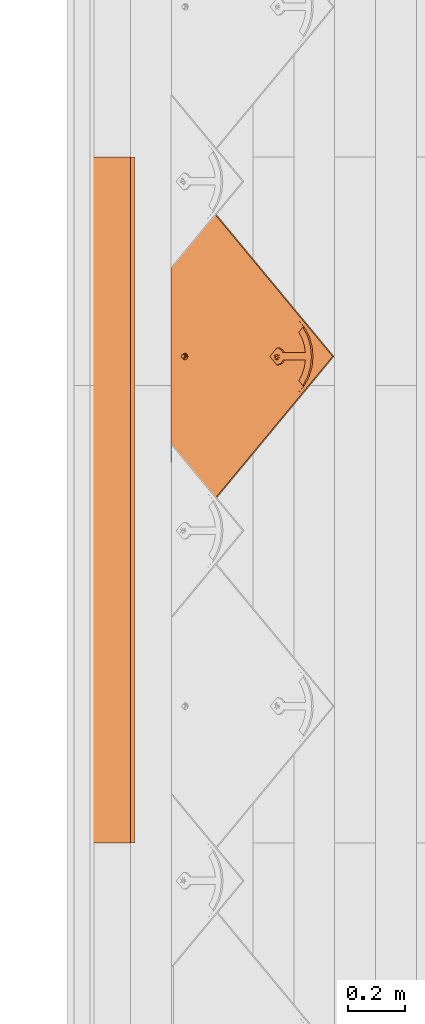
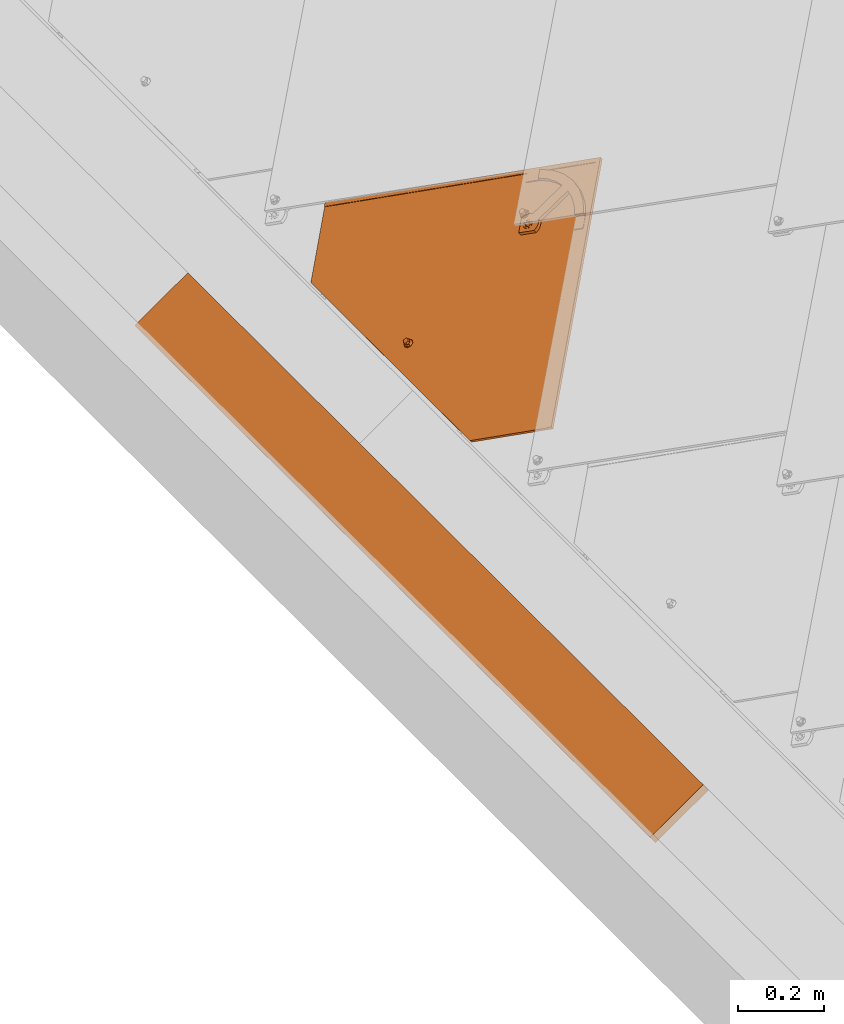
# One storey, part 26 of 151: 2 proxies, 1 element without a shape of its own.
"""IFC2X3 building model written with IfcOpenShell, lengths in millimetres."""

from ifc_helpers import new_model, entity, si_unit, converted_unit, derived_unit, direction, frame, frame_2d, origin, place, context, subcontext, project, spatial, rectangle, extrude, faceted_brep, source, transform, mapped, material, material_list, type_object, type_shapes, element, aggregate, save


model = new_model("IFC2X3")

# Units and contexts
model_context = context("Model", 3, precision=0.01, world=origin(), true_north=direction((6.12303176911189e-17, 1.0)))
body_context = subcontext(model_context, "Body", "Model", "MODEL_VIEW")
ifc_project = project(units=[si_unit("LENGTHUNIT", "METRE", prefix="MILLI"), si_unit("AREAUNIT", "SQUARE_METRE"), si_unit("VOLUMEUNIT", "CUBIC_METRE"), converted_unit("PLANEANGLEUNIT", "DEGREE", entity("IfcRatioMeasure", 0.0174532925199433), si_unit("PLANEANGLEUNIT", "RADIAN"), dimensions=[0, 0, 0, 0, 0, 0, 0]), si_unit("MASSUNIT", "GRAM", prefix="KILO"), derived_unit("MASSDENSITYUNIT", [(si_unit("MASSUNIT", "GRAM", prefix="KILO"), 1), (si_unit("LENGTHUNIT", "METRE"), -3)]), si_unit("TIMEUNIT", "SECOND"), si_unit("FREQUENCYUNIT", "HERTZ"), si_unit("THERMODYNAMICTEMPERATUREUNIT", "DEGREE_CELSIUS"), derived_unit("THERMALTRANSMITTANCEUNIT", [(si_unit("MASSUNIT", "GRAM", prefix="KILO"), 1), (si_unit("THERMODYNAMICTEMPERATUREUNIT", "KELVIN"), -1), (si_unit("TIMEUNIT", "SECOND"), -3)]), derived_unit("VOLUMETRICFLOWRATEUNIT", [(si_unit("LENGTHUNIT", "METRE"), 3), (si_unit("TIMEUNIT", "SECOND"), -1)]), si_unit("ELECTRICCURRENTUNIT", "AMPERE"), si_unit("ELECTRICVOLTAGEUNIT", "VOLT"), si_unit("POWERUNIT", "WATT"), si_unit("FORCEUNIT", "NEWTON", prefix="KILO"), si_unit("ILLUMINANCEUNIT", "LUX"), si_unit("LUMINOUSFLUXUNIT", "LUMEN"), si_unit("LUMINOUSINTENSITYUNIT", "CANDELA"), derived_unit("USERDEFINED", [(si_unit("MASSUNIT", "GRAM", prefix="KILO"), -1), (si_unit("LENGTHUNIT", "METRE"), -2), (si_unit("TIMEUNIT", "SECOND"), 3), (si_unit("LUMINOUSFLUXUNIT", "LUMEN"), 1)]), derived_unit("LINEARVELOCITYUNIT", [(si_unit("LENGTHUNIT", "METRE"), 1), (si_unit("TIMEUNIT", "SECOND"), -1)]), si_unit("PRESSUREUNIT", "PASCAL"), derived_unit("USERDEFINED", [(si_unit("LENGTHUNIT", "METRE"), -2), (si_unit("MASSUNIT", "GRAM", prefix="KILO"), 1), (si_unit("TIMEUNIT", "SECOND"), -2)])], contexts=[model_context])

# Site, building, storey
site_placement = place(None, origin())
site = spatial("IfcSite", under=ifc_project, at=site_placement, Name="Default", CompositionType="ELEMENT")
building_placement = place(site_placement, origin())
building = spatial("IfcBuilding", under=site, at=building_placement, CompositionType="ELEMENT")
storey_placement = place(building_placement, origin())
storey = spatial("IfcBuildingStorey", under=building, at=storey_placement, Name="Level 1", CompositionType="ELEMENT", Elevation=0.0)

# Assembly, proxy
assembly_placement = place(storey_placement, origin())
assembly = element("IfcElementAssembly", 1, at=assembly_placement, inside=storey, Name="Structural Framing Assembly:Roof Construction Assembly", ObjectType="Structural Framing Assembly:Roof Construction Assembly", AssemblyPlace="NOTDEFINED", PredefinedType="USERDEFINED")
ifc_material_1 = material(Name="Wood - Generic - Wood For Showcase")
building_element_proxy_type_1 = type_object("IfcBuildingElementProxyType", Name="Structural Framing 15", PredefinedType="NOTDEFINED", material=ifc_material_1)
shared_shape_1 = source(origin(), body_context, "Body", "SweptSolid", [
    extrude(rectangle(XDim=24.9999999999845, YDim=174.344679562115, at=frame_2d((-1.77635683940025e-13, -4.54747350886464e-13), x_axis=(0.0, 1.0))), frame((1128.20180147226, 1525.55080214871, 2760.23940055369), z_axis=(0.0, 1.0, 0.0), x_axis=(-0.819152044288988, 0.0, -0.573576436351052)), (0.0, 0.0, 1.0), 2400.0),
])
type_shapes(building_element_proxy_type_1, [shared_shape_1])
proxy_1_placement = place(assembly_placement, frame((-3655.6969464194, -4870.0, -2600.0)))
proxy_1 = element("IfcBuildingElementProxy", 2, at=proxy_1_placement, type_object=building_element_proxy_type_1, material=ifc_material_1, Name="Structural Framing 147:Structural Framing 15", ObjectType="Structural Framing 147:Structural Framing 15", context=body_context, shape_type="MappedRepresentation", body=[
    mapped(shared_shape_1, transform((0.0, 0.0, 0.0), scale=1.0)),
])
aggregate(assembly, [proxy_1])

# Proxy
ifc_material_2 = material(Name="Rubber - Sunstyle - Black")
ifc_material_3 = material(Name="Glass - Sunstyle - Tainted Black")
ifc_material_list_1 = material_list([ifc_material_2, ifc_material_3])
ifc_material_list_2 = material_list([ifc_material_2, ifc_material_3])
building_element_proxy_type_2 = type_object("IfcBuildingElementProxyType", Name="Shingle Bottom - Black", PredefinedType="NOTDEFINED", material=ifc_material_list_2)
shared_shape_2 = source(origin(), body_context, "Body", "Brep", [
    faceted_brep([(0.0, -1.79273515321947, -4.01619789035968), (-5.7742028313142, -5.12600528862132, -3.96037390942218), (-5.77420283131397, -4.75769619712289, 18.0314954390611), (0.0, -1.42442606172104, 17.9756714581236), (-5.77420283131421, -11.792545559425, -3.84872594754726), (-5.77420283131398, -11.4242364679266, 18.143143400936), (0.0, -15.1258156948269, -3.79290196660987), (0.0, -14.7575066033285, 18.1989673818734), (5.77420283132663, -11.7925455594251, -3.84872594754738), (5.77420283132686, -11.4242364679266, 18.1431434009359), (5.77420283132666, -5.12600528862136, -3.96037390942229), (5.77420283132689, -4.75769619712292, 18.031495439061), (-8.60370416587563, -16.6934641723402, 18.2313898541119), (0.0, -20.2567354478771, 18.2910657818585), (-12.1674751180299, -8.09096633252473, 18.0873194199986), (-8.60370416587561, 0.511531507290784, 17.9432489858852), (0.0, 4.07480278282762, 17.8835730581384), (8.60370416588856, 0.511531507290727, 17.9432489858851), (12.1674751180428, -8.09096633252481, 18.0873194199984), (8.60370416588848, -16.6934641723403, 18.2313898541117), (-11.4302228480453, -6.71737066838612, 20.4858706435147), (-9.77051349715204, -8.02009729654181, 22.3189355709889), (0.0, -0.706876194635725, 22.9603444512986), (0.0, 0.533621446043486, 22.3799978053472), (0.0, 2.69117229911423, 21.3706227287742), (-6.32324569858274, -4.35709193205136, 23.021476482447), (-6.32324569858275, -11.6575234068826, 23.1437405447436), (0.0, -18.7571148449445, 21.7298281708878), (0.0, -15.3077391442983, 23.2048725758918), (10.9851748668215, -11.808022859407, 20.3827540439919), (10.123850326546, -8.02413622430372, 22.0777687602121), (6.32324569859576, -4.3570919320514, 23.0214764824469), (6.32324569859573, -11.6575234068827, 23.1437405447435), (-6.32324569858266, -11.5234949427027, 31.146628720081), (0.0, -15.1737106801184, 31.2077607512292), (0.0, -7.8732792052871, 31.0854966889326), (-6.32324569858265, -4.22306346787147, 31.0243646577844), (6.32324569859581, -11.5234949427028, 31.1466287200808), (6.32324569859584, -4.22306346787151, 31.0243646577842), (0.0, -0.57284773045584, 30.963232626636), (0.0, -8.45927542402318, -3.90454992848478)], [[[0, 1, 2, 3]], [[1, 4, 5, 2]], [[4, 6, 7, 5]], [[6, 8, 9, 7]], [[8, 10, 11, 9]], [[10, 0, 3, 11]], [[12, 7, 13]], [[7, 12, 5]], [[14, 5, 12]], [[5, 14, 2]], [[15, 2, 14]], [[3, 2, 15]], [[15, 16, 3]], [[16, 17, 3]], [[11, 3, 17]], [[11, 17, 18]], [[9, 11, 18]], [[18, 19, 9]], [[7, 9, 19]], [[19, 13, 7]], [[15, 20, 16]], [[21, 22, 23, 24]], [[22, 21, 25]], [[20, 14, 12]], [[15, 14, 20]], [[25, 21, 26]], [[20, 24, 16]], [[12, 13, 27]], [[12, 27, 20]], [[21, 28, 26]], [[21, 27, 28]], [[20, 21, 24]], [[20, 27, 21]], [[19, 29, 13]], [[30, 23, 31]], [[30, 28, 27]], [[24, 23, 30]], [[29, 27, 13]], [[19, 18, 29]], [[29, 30, 27]], [[29, 17, 24]], [[24, 17, 16]], [[31, 32, 30]], [[23, 22, 31]], [[28, 30, 32]], [[29, 24, 30]], [[29, 18, 17]], [[33, 34, 35]], [[35, 36, 33]], [[34, 37, 35]], [[38, 35, 37]], [[35, 38, 39]], [[35, 39, 36]], [[40, 6, 4]], [[4, 1, 40]], [[1, 0, 40]], [[40, 8, 6]], [[0, 10, 40]], [[8, 40, 10]], [[22, 25, 36, 39]], [[25, 26, 33, 36]], [[26, 28, 34, 33]], [[28, 32, 37, 34]], [[32, 31, 38, 37]], [[31, 22, 39, 38]]]),
    faceted_brep([(0.0, 372.824876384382, 20.3195200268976), (0.0, 377.324245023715, 20.2441667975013), (-8.60370416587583, 376.388147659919, 20.2598440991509), (8.60370416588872, 376.388147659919, 20.2598440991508), (6.64022859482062, 381.157445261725, 20.1799702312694), (12.1674751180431, 384.990645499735, 20.1157736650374), (6.64022859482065, 388.823845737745, 20.0515770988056), (8.6037041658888, 393.59314333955, 19.9717032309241), (0.0, 392.657045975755, 19.9873805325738), (0.0, 397.156414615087, 19.9120273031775), (-8.60370416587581, 393.59314333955, 19.9717032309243), (-6.64022859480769, 388.823845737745, 20.0515770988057), (-12.1674751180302, 384.990645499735, 20.1157736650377), (-6.6402285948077, 381.157445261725, 20.1799702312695), (-6.6402282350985, 388.555922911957, 4.05382046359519), (0.0, 392.389122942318, 3.98962390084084), (-6.64022823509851, 380.889522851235, 4.18221358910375), (0.0, 377.056322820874, 4.24641015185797), (6.64022823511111, 380.889522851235, 4.18221358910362), (6.64022823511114, 388.555922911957, 4.05382046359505), (-8.603704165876, 376.12022504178, 4.26208746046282), (0.0, 372.556953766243, 4.32176338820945), (-12.1674751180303, 384.722722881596, 4.11801702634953), (-8.60370416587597, 393.325220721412, 3.97394659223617), (0.0, 396.888491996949, 3.91427066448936), (8.60370416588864, 393.325220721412, 3.97394659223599), (12.1674751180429, 384.722722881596, 4.11801702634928), (8.60370416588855, 376.12022504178, 4.26208746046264)], [[[0, 1, 2]], [[1, 0, 3]], [[3, 4, 1]], [[4, 3, 5]], [[6, 4, 5]], [[5, 7, 6]], [[7, 8, 6]], [[8, 7, 9]], [[8, 9, 10]], [[10, 11, 8]], [[12, 11, 10]], [[2, 13, 12]], [[12, 13, 11]], [[13, 2, 1]], [[8, 11, 14, 15]], [[11, 13, 16, 14]], [[13, 1, 17, 16]], [[1, 4, 18, 17]], [[4, 6, 19, 18]], [[6, 8, 15, 19]], [[20, 17, 21]], [[17, 20, 16]], [[22, 16, 20]], [[14, 16, 22]], [[23, 14, 22]], [[15, 14, 23]], [[23, 24, 15]], [[24, 25, 15]], [[19, 15, 25]], [[19, 25, 26]], [[26, 18, 19]], [[26, 27, 18]], [[17, 18, 27]], [[27, 21, 17]], [[24, 23, 10, 9]], [[10, 23, 22, 12]], [[20, 21, 0, 2]], [[20, 2, 12, 22]], [[21, 27, 3, 0]], [[3, 27, 26, 5]], [[25, 24, 9, 7]], [[25, 7, 5, 26]]]),
    faceted_brep([(518.247351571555, 79.9143812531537, 14.965257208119), (526.732038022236, 88.3990677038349, 14.8231598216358), (526.732038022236, 88.4241854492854, 16.3229495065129), (518.247351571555, 79.9394989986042, 16.4650468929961), (0.000322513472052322, 598.016093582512, 6.28834266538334), (-518.246706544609, 79.9143812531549, 14.9652572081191), (-526.73139299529, 88.3990677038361, 14.8231598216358), (0.000322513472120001, 614.983087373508, 6.00418773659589), (0.000322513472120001, 615.008205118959, 7.50397742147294), (-526.731392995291, 88.4241854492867, 16.3229495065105), (-518.246706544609, 79.9394989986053, 16.465046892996), (0.000322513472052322, 598.041211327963, 7.78813235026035)], [[[0, 1, 2, 3]], [[1, 0, 4, 5, 6, 7]], [[2, 1, 7, 8]], [[3, 2, 8, 9, 10, 11]], [[0, 3, 11, 4]], [[5, 10, 9, 6]], [[8, 7, 6, 9]], [[4, 11, 10, 5]]]),
    faceted_brep([(0.00032251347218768, 614.983087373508, 6.00418773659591), (-2.87802047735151, 396.187349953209, 9.66847193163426), (0.227808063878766, 396.596182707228, 9.6616250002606), (-5.77219193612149, 394.988712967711, 9.68854611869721), (3.3336366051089, 396.187349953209, 9.66847193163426), (6.22780806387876, 394.988712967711, 9.6885461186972), (8.71308943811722, 393.081956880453, 9.72047953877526), (10.620112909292, 390.59702396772, 9.76209598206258), (-8.25747331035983, 393.081956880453, 9.72047953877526), (-10.1644967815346, 390.59702396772, 9.76209598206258), (-11.3633018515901, 387.703258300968, 9.81055935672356), (-526.731392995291, 88.3990677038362, 14.8231598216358), (11.8189179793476, 387.703258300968, 9.81055935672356), (526.732038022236, 88.3990677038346, 14.8231598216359), (-11.7721919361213, 384.597865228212, 9.86256696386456), (-11.3633018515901, 381.492472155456, 9.91457457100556), (-10.1644967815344, 378.598706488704, 9.96303794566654), (-370.355016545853, -67.9334607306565, 17.4413406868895), (-8.25747331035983, 376.113773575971, 10.0046543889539), (-5.65685424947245, -2.29422365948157, 16.3420467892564), (-6.92820323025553, -3.95084560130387, 16.3697910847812), (-7.72740661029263, -5.88002271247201, 16.4021000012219), (-8.0, -7.95028476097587, 16.4367717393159), (-7.72740661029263, -10.0205468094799, 16.4714434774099), (-6.9282032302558, -11.9497239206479, 16.5037523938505), (-5.65685424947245, -13.6063458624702, 16.5314966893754), (-4.0, -14.8775165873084, 16.5527856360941), (-2.07055236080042, -15.676607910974, 16.5661684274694), (0.0, -15.9491630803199, 16.5707330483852), (370.355661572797, -67.9334607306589, 17.4413406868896), (10.620112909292, 378.598706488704, 9.96303794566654), (8.71308943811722, 376.11377357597, 10.0046543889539), (5.65685424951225, -2.29422365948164, 16.3420467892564), (6.92820323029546, -3.9508456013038, 16.3697910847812), (7.72740661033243, -5.88002271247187, 16.4021000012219), (8.0, -7.9502847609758, 16.4367717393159), (7.72740661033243, -10.0205468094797, 16.4714434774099), (6.92820323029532, -11.9497239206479, 16.5037523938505), (5.65685424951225, -13.6063458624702, 16.5314966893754), (4.0, -14.8775165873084, 16.5527856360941), (2.07055236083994, -15.676607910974, 16.5661684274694), (-5.77219193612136, 374.207017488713, 10.0365878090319), (-4.0, -1.02305293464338, 16.3207578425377), (-2.87802047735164, 373.008380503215, 10.0566619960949), (-2.07055236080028, -0.223961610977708, 16.3073750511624), (0.227808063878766, 372.599547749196, 10.0635089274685), (0.0, 0.0485935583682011, 16.3028104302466), (2.07055236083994, -0.223961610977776, 16.3073750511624), (3.3336366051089, 373.008380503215, 10.0566619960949), (4.0, -1.02305293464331, 16.3207578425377), (6.22780806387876, 374.207017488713, 10.0365878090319), (12.2278080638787, 384.597865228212, 9.86256696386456), (11.8189179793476, 381.492472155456, 9.91457457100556), (-370.355016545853, -68.059049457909, 9.94239226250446), (-6.92820323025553, -4.07643432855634, 8.87084266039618), (-7.72740661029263, -6.00561143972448, 8.90315157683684), (-8.0, -8.07587348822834, 8.93782331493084), (-7.72740661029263, -10.1461355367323, 8.97249505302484), (-6.9282032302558, -12.0753126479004, 9.00480396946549), (-5.65685424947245, -13.7319345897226, 9.03254826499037), (-5.65685424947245, -2.41981238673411, 8.8430983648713), (-8.25747331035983, 375.988184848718, 2.50570596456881), (-4.0, -15.0031053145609, 9.05383721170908), (-2.07055236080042, -15.8021966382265, 9.06722000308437), (0.0, -16.0747518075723, 9.07178462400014), (370.355661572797, -68.0590494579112, 9.9423922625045), (-10.1644967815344, 378.473117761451, 2.46408952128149), (-526.731392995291, 88.2734789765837, 7.32421139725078), (-11.3633018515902, 381.366883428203, 2.41562614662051), (-11.7721919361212, 384.472276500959, 2.36361853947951), (-11.3633018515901, 387.577669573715, 2.3116109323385), (0.00032251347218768, 614.857498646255, -1.49476068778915), (-10.1644967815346, 390.471435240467, 2.26314755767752), (-8.25747331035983, 392.956368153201, 2.22153111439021), (-5.77219193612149, 394.863124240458, 2.18959769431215), (-2.87802047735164, 396.061761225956, 2.16952350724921), (0.227808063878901, 396.470593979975, 2.16267657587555), (3.3336366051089, 396.061761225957, 2.1695235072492), (6.22780806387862, 394.863124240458, 2.18959769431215), (8.71308943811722, 392.956368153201, 2.2215311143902), (10.620112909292, 390.471435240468, 2.26314755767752), (11.8189179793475, 387.577669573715, 2.31161093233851), (526.732038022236, 88.2734789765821, 7.32421139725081), (12.2278080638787, 384.472276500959, 2.3636185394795), (10.620112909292, 378.473117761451, 2.46408952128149), (11.8189179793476, 381.366883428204, 2.41562614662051), (-5.77219193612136, 374.08142876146, 2.53763938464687), (-4.0, -1.14864166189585, 8.8218094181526), (-2.87802047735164, 372.882791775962, 2.55771357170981), (-2.07055236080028, -0.349550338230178, 8.8084266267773), (0.227808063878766, 372.473959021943, 2.56456050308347), (0.0, -0.0769951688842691, 8.80386200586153), (2.07055236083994, -0.349550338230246, 8.8084266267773), (3.3336366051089, 372.882791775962, 2.55771357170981), (4.0, -1.14864166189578, 8.8218094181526), (6.22780806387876, 374.081428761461, 2.53763938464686), (5.65685424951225, -2.41981238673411, 8.8430983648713), (8.71308943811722, 375.988184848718, 2.50570596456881), (6.92820323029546, -4.07643432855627, 8.87084266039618), (7.72740661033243, -6.00561143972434, 8.90315157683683), (8.0, -8.07587348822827, 8.93782331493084), (7.72740661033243, -10.1461355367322, 8.97249505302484), (6.92820323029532, -12.0753126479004, 9.00480396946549), (5.65685424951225, -13.7319345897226, 9.03254826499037), (4.0, -15.0031053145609, 9.05383721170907), (2.07055236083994, -15.8021966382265, 9.06722000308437)], [[[0, 1, 2]], [[1, 0, 3]], [[0, 2, 4]], [[4, 5, 0]], [[5, 6, 0]], [[0, 6, 7]], [[8, 3, 0]], [[9, 8, 0]], [[9, 0, 10]], [[10, 0, 11]], [[12, 0, 7]], [[12, 13, 0]], [[11, 14, 10]], [[14, 11, 15]], [[16, 15, 11]], [[11, 17, 16]], [[16, 17, 18]], [[19, 18, 17]], [[19, 17, 20]], [[20, 17, 21]], [[22, 21, 17]], [[22, 17, 23]], [[24, 23, 17]], [[17, 25, 24]], [[26, 25, 17]], [[27, 26, 17]], [[17, 28, 27]], [[28, 17, 29]], [[29, 13, 30]], [[29, 30, 31]], [[29, 31, 32]], [[32, 33, 29]], [[33, 34, 29]], [[35, 29, 34]], [[29, 35, 36]], [[36, 37, 29]], [[29, 37, 38]], [[38, 39, 29]], [[40, 28, 29]], [[39, 40, 29]], [[41, 18, 19]], [[42, 41, 19]], [[42, 43, 41]], [[44, 43, 42]], [[44, 45, 43]], [[46, 45, 44]], [[47, 45, 46]], [[48, 45, 47]], [[49, 48, 47]], [[49, 50, 48]], [[32, 50, 49]], [[32, 31, 50]], [[12, 51, 13]], [[52, 13, 51]], [[13, 52, 30]], [[53, 54, 55]], [[53, 55, 56]], [[56, 57, 53]], [[57, 58, 53]], [[53, 58, 59]], [[60, 54, 53]], [[61, 60, 53]], [[59, 62, 53]], [[62, 63, 53]], [[63, 64, 53]], [[53, 64, 65]], [[66, 61, 53]], [[66, 53, 67]], [[68, 66, 67]], [[69, 68, 67]], [[69, 67, 70]], [[67, 71, 70]], [[72, 70, 71]], [[73, 72, 71]], [[71, 74, 73]], [[74, 71, 75]], [[75, 71, 76]], [[77, 76, 71]], [[77, 71, 78]], [[79, 78, 71]], [[71, 80, 79]], [[80, 71, 81]], [[71, 82, 81]], [[83, 81, 82]], [[84, 82, 65]], [[85, 82, 84]], [[82, 85, 83]], [[86, 60, 61]], [[86, 87, 60]], [[88, 87, 86]], [[89, 87, 88]], [[90, 89, 88]], [[90, 91, 89]], [[92, 91, 90]], [[92, 90, 93]], [[94, 92, 93]], [[93, 95, 94]], [[94, 95, 96]], [[97, 96, 95]], [[96, 97, 65]], [[84, 65, 97]], [[98, 96, 65]], [[99, 98, 65]], [[99, 65, 100]], [[101, 100, 65]], [[102, 101, 65]], [[103, 102, 65]], [[104, 103, 65]], [[105, 104, 65]], [[65, 64, 105]], [[11, 0, 71, 67]], [[17, 11, 67, 53]], [[13, 29, 65, 82]], [[0, 13, 82, 71]], [[22, 56, 55, 21]], [[21, 55, 54, 20]], [[42, 19, 60, 87]], [[60, 19, 20, 54]], [[44, 42, 87, 89]], [[44, 89, 91, 46]], [[46, 91, 92, 47]], [[47, 92, 94, 49]], [[33, 32, 96, 98]], [[96, 32, 49, 94]], [[34, 33, 98, 99]], [[34, 99, 100, 35]], [[35, 100, 101, 36]], [[36, 101, 102, 37]], [[39, 38, 103, 104]], [[103, 38, 37, 102]], [[40, 39, 104, 105]], [[40, 105, 64, 28]], [[28, 64, 63, 27]], [[27, 63, 62, 26]], [[24, 25, 59, 58]], [[59, 25, 26, 62]], [[23, 24, 58, 57]], [[23, 57, 56, 22]], [[14, 69, 70, 10]], [[10, 70, 72, 9]], [[3, 8, 73, 74]], [[73, 8, 9, 72]], [[1, 3, 74, 75]], [[1, 75, 76, 2]], [[2, 76, 77, 4]], [[4, 77, 78, 5]], [[7, 6, 79, 80]], [[79, 6, 5, 78]], [[12, 7, 80, 81]], [[12, 81, 83, 51]], [[51, 83, 85, 52]], [[52, 85, 84, 30]], [[50, 31, 97, 95]], [[97, 31, 30, 84]], [[48, 50, 95, 93]], [[48, 93, 90, 45]], [[45, 90, 88, 43]], [[43, 88, 86, 41]], [[16, 18, 61, 66]], [[41, 86, 61, 18]], [[68, 15, 16, 66]], [[15, 68, 69, 14]], [[29, 17, 53, 65]]]),
    faceted_brep([(-111.269043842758, 451.472531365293, 11.2429332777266), (-84.9443960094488, 477.793488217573, 10.8021227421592), (-102.027571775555, 494.874268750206, 10.5160621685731), (-108.279973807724, 489.512620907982, 10.6058564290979), (-114.2509690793, 483.839345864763, 10.7008696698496), (-128.946713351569, 469.147722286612, 10.9469178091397), (128.946713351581, 469.147722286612, 10.9469178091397), (114.250969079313, 483.839345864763, 10.7008696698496), (108.279973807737, 489.512620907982, 10.6058564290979), (102.027571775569, 494.874268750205, 10.5160621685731), (84.9431983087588, 477.794685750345, 10.802102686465), (111.269043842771, 451.472531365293, 11.2429332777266), (-8.48528137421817, 393.302959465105, 19.7181805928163), (-18.7041061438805, 407.484939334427, 19.4806677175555), (-23.2046504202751, 402.851933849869, 19.5582590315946), (-10.3923048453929, 390.818026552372, 19.7597970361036), (-6.0, 395.209715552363, 19.6862471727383), (-13.2999999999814, 411.02298750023, 19.4214142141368), (-3.10582854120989, 396.408352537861, 19.6661729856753), (0.0, 396.81718529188, 19.6593260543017), (13.3000000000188, 411.022987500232, 19.4214142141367), (3.10582854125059, 396.408352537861, 19.6661729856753), (6.0, 395.209715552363, 19.6862471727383), (18.7041061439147, 407.484939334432, 19.4806677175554), (8.48528137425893, 393.302959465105, 19.7181805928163), (23.2046504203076, 402.85193384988, 19.5582590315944), (10.3923048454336, 390.818026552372, 19.7597970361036), (26.5842195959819, 397.347783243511, 19.6504398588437), (11.5911099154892, 387.92426088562, 19.8082604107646), (28.6795527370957, 391.238383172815, 19.752757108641), (12.0, 384.818867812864, 19.8602680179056), (29.3894280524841, 384.818867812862, 19.8602680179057), (11.5911099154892, 381.713474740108, 19.9122756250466), (10.3923048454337, 378.819709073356, 19.9607389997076), (8.48528137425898, 376.334776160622, 20.0023554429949), (0.0, 355.433560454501, 20.3523987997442), (6.0, 374.428020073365, 20.034288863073), (3.10582854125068, 373.229383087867, 20.0543630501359), (0.0, 372.820550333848, 20.0612099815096), (-3.10582854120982, 373.229383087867, 20.0543630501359), (-6.0, 374.428020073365, 20.034288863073), (-8.48528137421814, 376.334776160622, 20.0023554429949), (-29.3894280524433, 384.818867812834, 19.8602680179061), (-10.3923048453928, 378.819709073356, 19.9607389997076), (-11.5911099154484, 381.713474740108, 19.9122756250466), (-12.0, 384.818867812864, 19.8602680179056), (-28.67955273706, 391.238383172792, 19.7527571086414), (-11.5911099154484, 387.92426088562, 19.8082604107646), (-26.5842195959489, 397.347783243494, 19.650439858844), (-13.2999999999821, 505.810987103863, 17.833951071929), (13.3000000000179, 505.810987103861, 17.833951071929), (0.0, 531.282600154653, 17.4073649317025), (36.4908407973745, 527.108634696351, 17.4772684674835), (38.7697427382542, 500.996106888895, 17.9145883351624), (71.096085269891, 514.802420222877, 17.6833669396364), (62.9243331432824, 491.592473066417, 18.0720758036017), (102.027571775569, 494.999857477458, 18.0150105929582), (84.9443960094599, 477.919076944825, 18.3010711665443), (-36.4908407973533, 527.108634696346, 17.4772684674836), (-38.7697427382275, 500.996106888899, 17.9145883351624), (-71.0960852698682, 514.802420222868, 17.6833669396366), (-62.9243331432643, 491.592473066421, 18.0720758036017), (-102.027571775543, 494.999857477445, 18.0150105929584), (-84.9443960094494, 477.919076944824, 18.3010711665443), (0.0, 355.266108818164, 10.3538009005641), (0.0, 372.653098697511, 10.0626120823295), (3.10582854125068, 373.06193145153, 10.0557651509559), (-3.10582854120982, 373.06193145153, 10.0557651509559), (6.0, 374.260568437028, 10.0356909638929), (8.48528137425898, 376.167324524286, 10.0037575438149), (29.3894280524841, 384.651416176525, 9.86167011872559), (-6.0, 374.260568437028, 10.0356909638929), (-8.48528137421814, 376.167324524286, 10.0037575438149), (-29.3894280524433, 384.651416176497, 9.86167011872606), (-10.3923048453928, 378.652257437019, 9.96214110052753), (-11.5911099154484, 381.546023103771, 9.91367772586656), (-12.0, 384.651416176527, 9.86167011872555), (-28.67955273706, 391.070931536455, 9.75415920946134), (-11.5911099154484, 387.756809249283, 9.80966251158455), (-26.5842195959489, 397.180331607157, 9.65184195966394), (-10.3923048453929, 390.650574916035, 9.76119913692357), (-23.2046504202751, 402.684482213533, 9.5596611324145), (-8.48528137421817, 393.135507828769, 9.71958269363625), (-18.7041061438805, 407.31748769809, 9.48206981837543), (-6.0, 395.042263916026, 9.6876492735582), (-13.2999999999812, 410.855535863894, 9.4228163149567), (-3.10582854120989, 396.240900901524, 9.66757508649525), (0.0, 396.649733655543, 9.66072815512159), (13.3000000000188, 410.855535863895, 9.42281631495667), (-13.2999999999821, 505.643535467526, 7.83535317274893), (13.3000000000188, 505.643535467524, 7.83535317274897), (0.0, 531.115148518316, 7.4087670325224), (-36.4908407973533, 526.94118306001, 7.47867056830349), (-38.7697427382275, 500.828655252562, 7.91599043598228), (-71.0960852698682, 514.634968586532, 7.68476904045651), (-62.9243331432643, 491.425021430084, 8.07347790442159), (-102.027571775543, 494.832405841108, 8.01641269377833), (-84.9431983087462, 477.752822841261, 8.30245321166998), (-108.279973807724, 489.470757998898, 8.10620695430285), (-114.2509690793, 483.79748295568, 8.2012201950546), (-111.269043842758, 451.430668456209, 8.74328380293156), (-128.946713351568, 469.105859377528, 8.44726833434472), (36.4908407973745, 526.941183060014, 7.47867056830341), (38.7697427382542, 500.828655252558, 7.91599043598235), (71.096085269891, 514.634968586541, 7.68476904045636), (62.9243331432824, 491.425021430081, 8.07347790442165), (102.027571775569, 494.832405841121, 8.01641269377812), (84.9443960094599, 477.751625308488, 8.30247326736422), (108.279973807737, 489.470757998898, 8.10620695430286), (114.250969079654, 483.797482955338, 8.20122019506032), (111.269043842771, 451.430668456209, 8.74328380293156), (128.946713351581, 469.105859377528, 8.44726833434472), (3.10582854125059, 396.240900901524, 9.66757508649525), (6.0, 395.042263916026, 9.6876492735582), (18.7041061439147, 407.317487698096, 9.48206981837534), (8.48528137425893, 393.135507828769, 9.71958269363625), (23.2046504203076, 402.684482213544, 9.55966113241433), (10.3923048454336, 390.650574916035, 9.76119913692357), (26.5842195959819, 397.180331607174, 9.65184195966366), (11.5911099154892, 387.756809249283, 9.80966251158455), (28.6795527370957, 391.070931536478, 9.75415920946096), (12.0, 384.651416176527, 9.86167011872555), (11.5911099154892, 381.546023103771, 9.91367772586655), (10.3923048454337, 378.652257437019, 9.96214110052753)], [[[0, 1, 2, 3, 4, 5]], [[6, 7, 8, 9, 10, 11]], [[12, 13, 14]], [[15, 12, 14]], [[16, 13, 12]], [[13, 16, 17]], [[17, 16, 18]], [[18, 19, 17]], [[20, 17, 19]], [[19, 21, 20]], [[22, 20, 21]], [[22, 23, 20]], [[22, 24, 23]], [[25, 23, 24]], [[26, 25, 24]], [[25, 26, 27]], [[26, 28, 27]], [[29, 27, 28]], [[28, 30, 29]], [[31, 29, 30]], [[30, 32, 31]], [[32, 33, 31]], [[31, 33, 34]], [[34, 35, 31]], [[34, 36, 35]], [[37, 35, 36]], [[38, 35, 37]], [[35, 38, 39]], [[40, 35, 39]], [[40, 41, 35]], [[42, 35, 41]], [[43, 42, 41]], [[43, 44, 42]], [[44, 45, 42]], [[45, 46, 42]], [[46, 45, 47]], [[48, 46, 47]], [[47, 15, 48]], [[48, 15, 14]], [[20, 49, 17]], [[49, 20, 50]], [[51, 49, 50]], [[50, 52, 51]], [[53, 52, 50]], [[52, 53, 54]], [[55, 54, 53]], [[54, 55, 56]], [[55, 57, 56]], [[58, 49, 51]], [[49, 58, 59]], [[60, 59, 58]], [[60, 61, 59]], [[61, 60, 62]], [[61, 62, 63]], [[64, 65, 66]], [[65, 64, 67]], [[64, 66, 68]], [[68, 69, 64]], [[64, 69, 70]], [[71, 67, 64]], [[71, 64, 72]], [[72, 64, 73]], [[73, 74, 72]], [[74, 73, 75]], [[76, 75, 73]], [[77, 76, 73]], [[76, 77, 78]], [[78, 77, 79]], [[80, 78, 79]], [[81, 80, 79]], [[82, 80, 81]], [[81, 83, 82]], [[83, 84, 82]], [[84, 83, 85]], [[85, 86, 84]], [[87, 86, 85]], [[87, 85, 88]], [[88, 85, 89]], [[88, 89, 90]], [[89, 91, 90]], [[91, 89, 92]], [[93, 92, 89]], [[94, 92, 93]], [[93, 95, 94]], [[95, 96, 94]], [[97, 96, 95]], [[98, 96, 97]], [[99, 98, 97]], [[97, 100, 99]], [[101, 99, 100]], [[102, 90, 91]], [[90, 102, 103]], [[104, 103, 102]], [[103, 104, 105]], [[105, 104, 106]], [[107, 105, 106]], [[107, 106, 108]], [[109, 107, 108]], [[110, 107, 109]], [[111, 110, 109]], [[87, 88, 112]], [[113, 112, 88]], [[114, 113, 88]], [[115, 113, 114]], [[115, 114, 116]], [[116, 117, 115]], [[116, 118, 117]], [[117, 118, 119]], [[119, 118, 120]], [[121, 119, 120]], [[120, 70, 121]], [[122, 121, 70]], [[70, 69, 123]], [[123, 122, 70]], [[17, 49, 89, 85]], [[13, 17, 85, 83]], [[14, 13, 83, 81]], [[81, 79, 48, 14]], [[46, 48, 79, 77]], [[42, 46, 77, 73]], [[35, 42, 73, 64]], [[31, 35, 64, 70]], [[29, 31, 70, 120]], [[27, 29, 120, 118]], [[118, 116, 25, 27]], [[23, 25, 116, 114]], [[20, 23, 114, 88]], [[50, 20, 88, 90]], [[9, 106, 104, 54, 56]], [[52, 54, 104, 102]], [[51, 52, 102, 91]], [[58, 51, 91, 92]], [[94, 96, 2, 62, 60]], [[60, 58, 92, 94]], [[45, 76, 78, 47]], [[47, 78, 80, 15]], [[16, 12, 82, 84]], [[80, 82, 12, 15]], [[18, 16, 84, 86]], [[87, 19, 18, 86]], [[21, 112, 113, 22]], [[22, 113, 115, 24]], [[28, 26, 117, 119]], [[115, 117, 26, 24]], [[30, 28, 119, 121]], [[21, 19, 87, 112]], [[30, 121, 122, 32]], [[32, 122, 123, 33]], [[36, 34, 69, 68]], [[123, 69, 34, 33]], [[37, 36, 68, 66]], [[65, 38, 37, 66]], [[39, 67, 71, 40]], [[40, 71, 72, 41]], [[44, 43, 74, 75]], [[72, 74, 43, 41]], [[45, 44, 75, 76]], [[39, 38, 65, 67]], [[7, 6, 111, 109]], [[6, 11, 110, 111]], [[7, 109, 108, 8]], [[108, 106, 9, 8]], [[11, 10, 107, 110]], [[0, 5, 101, 100]], [[1, 0, 100, 97]], [[2, 96, 98, 3]], [[98, 99, 4, 3]], [[5, 4, 99, 101]], [[63, 62, 2, 1]], [[56, 57, 10]], [[10, 9, 56]], [[1, 95, 61, 63]], [[1, 97, 95]], [[93, 89, 49, 59]], [[95, 93, 59, 61]], [[90, 103, 53, 50]], [[103, 105, 55, 53]], [[10, 57, 55]], [[107, 10, 105]], [[55, 105, 10]]]),
])
type_shapes(building_element_proxy_type_2, [shared_shape_2])
proxy_2_placement = place(storey_placement, frame((-2255.91465967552, -1641.99834628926, 365.661785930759), z_axis=(-0.57357643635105, 0.0, 0.819152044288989), x_axis=(0.0, -1.0, 0.0)))
element("IfcBuildingElementProxy", 3, at=proxy_2_placement, inside=storey, type_object=building_element_proxy_type_2, material=ifc_material_list_1, Name="Roofing_Panels_SunStyle_Tile_Shingle-Bottom:Shingle Bottom - Black", ObjectType="Roofing_Panels_SunStyle_Tile_Shingle-Bottom:Shingle Bottom - Black", context=body_context, shape_type="MappedRepresentation", body=[
    mapped(shared_shape_2, transform((0.0, 0.0, 0.0), scale=1.0)),
])

save(model, "model.ifc")
